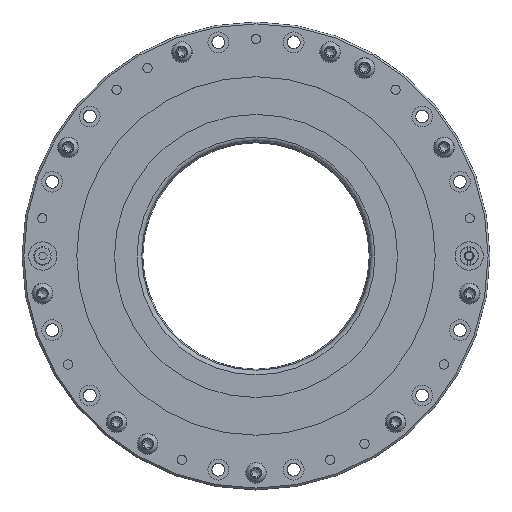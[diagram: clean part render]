
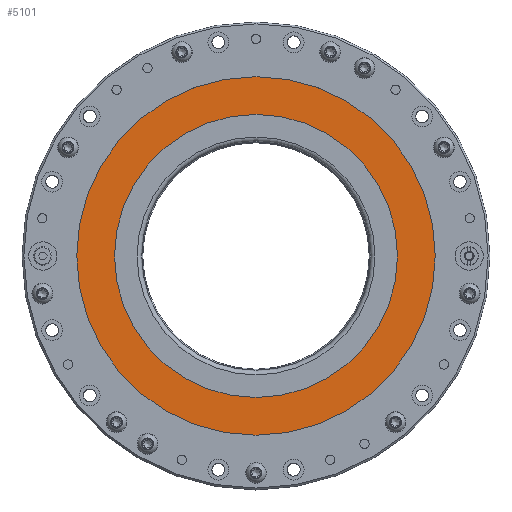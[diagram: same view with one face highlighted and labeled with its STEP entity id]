
A CAD part, top view. The second image highlights one B-rep face of the part: STEP entity #5101.
In plain terms, the highlighted planar face has unit normal (0, 0, 1) as drawn and (0, 0, -1) by its records, which use the part's own axes.
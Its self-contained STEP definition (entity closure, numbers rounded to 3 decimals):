
#560=CIRCLE('',#5483,75.);
#561=CIRCLE('',#5484,95.);
#1092=ORIENTED_EDGE('',*,*,#1802,.T.);
#1093=ORIENTED_EDGE('',*,*,#1803,.F.);
#1802=EDGE_CURVE('',#2219,#2219,#560,.T.);
#1803=EDGE_CURVE('',#2220,#2220,#561,.T.);
#2219=VERTEX_POINT('',#7870);
#2220=VERTEX_POINT('',#7872);
#2856=EDGE_LOOP('',(#1092));
#2857=EDGE_LOOP('',(#1093));
#3321=FACE_BOUND('',#2856,.T.);
#3322=FACE_BOUND('',#2857,.T.);
#3542=PLANE('',#5482);
#5101=ADVANCED_FACE('',(#3321,#3322),#3542,.F.);
#5482=AXIS2_PLACEMENT_3D('',#7868,#6259,#6260);
#5483=AXIS2_PLACEMENT_3D('',#7869,#6261,#6262);
#5484=AXIS2_PLACEMENT_3D('',#7871,#6263,#6264);
#6259=DIRECTION('',(0.,0.,1.));
#6260=DIRECTION('',(1.,0.,0.));
#6261=DIRECTION('',(0.,0.,1.));
#6262=DIRECTION('',(1.,0.,0.));
#6263=DIRECTION('',(0.,0.,1.));
#6264=DIRECTION('',(1.,0.,0.));
#7868=CARTESIAN_POINT('',(75.,0.,-7.5));
#7869=CARTESIAN_POINT('',(0.,0.,-7.5));
#7870=CARTESIAN_POINT('',(75.,0.,-7.5));
#7871=CARTESIAN_POINT('',(0.,0.,-7.5));
#7872=CARTESIAN_POINT('',(95.,0.,-7.5));
